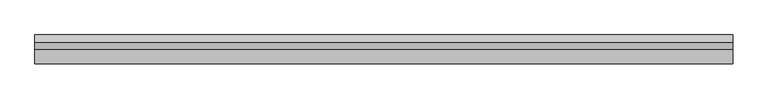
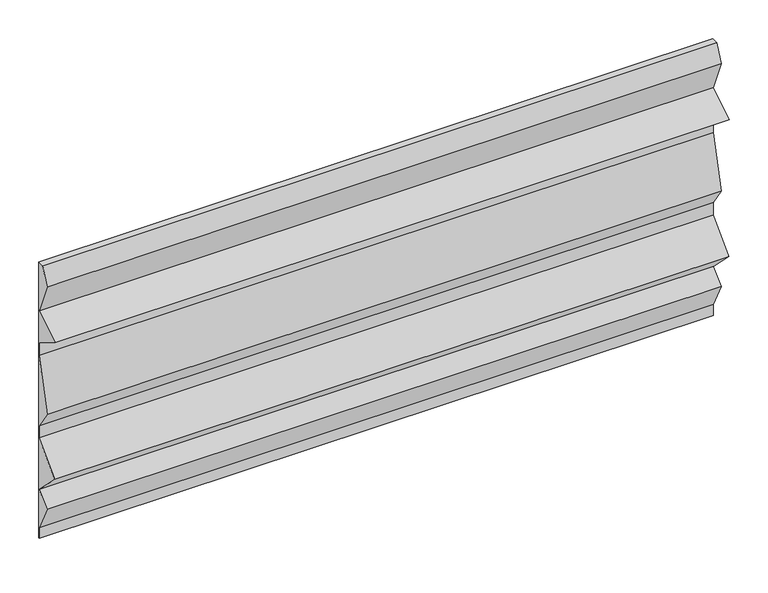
"""IFC4 building model written with IfcOpenShell, lengths in millimetres: plate geometry, ATELIERS 3S_GLACE PISSAILLAS 1000_HORIZONTAL : AZURO."""

import ifcopenshell
import ifcopenshell.guid

model = None  # the IFC model being written
_history = None  # IfcOwnerHistory: only IFC2X3 demands one
_inside = {}  # id of a spatial element -> (the spatial element, [elements in it])
_under = {}  # id of a project, library or spatial element -> (it, [spatial elements below it])
_declared = {}  # id of a project -> (the project, [libraries it declares])
_typed = {}  # id of a type object -> (the type object, [elements of that type])
_made_of = {}  # id of a material, layer set ... -> (it, [elements and type objects made of it])


def new_model(schema):
    """Start an empty IFC model of exactly this schema.

    Asked for "IFC4X3", IfcOpenShell would pick the latest addendum, in which some entities
    have other attributes; the version numbers below select the first issue.
    IFC2X3 requires an IfcOwnerHistory on every rooted entity: one is made here for all.
    """
    global model, _history
    if schema == "IFC4X3":
        model = ifcopenshell.file(schema_version=(4, 3, 0, 0))
    else:
        model = ifcopenshell.file(schema=schema)
    _inside.clear()
    _under.clear()
    _declared.clear()
    _typed.clear()
    _made_of.clear()
    _history = None
    if model.schema == "IFC2X3":
        org = make("IfcOrganization", Name="unknown")
        user = make(
            "IfcPersonAndOrganization",
            ThePerson=make("IfcPerson", FamilyName="unknown"),
            TheOrganization=org,
        )
        app = make(
            "IfcApplication",
            ApplicationDeveloper=org,
            Version="unknown",
            ApplicationFullName="unknown",
            ApplicationIdentifier="unknown",
        )
        _history = make(
            "IfcOwnerHistory",
            OwningUser=user,
            OwningApplication=app,
            ChangeAction="ADDED",
            CreationDate=0,
        )
    return model


def make(cls, **values):
    """One entity of the class cls with the attributes given. An attribute that is None is left unset."""
    return model.create_entity(
        cls, **{name: value for name, value in values.items() if value is not None}
    )


def rooted(cls, **values):
    """An entity with a GlobalId (a new one), such as an element, a storey or a relation."""
    return make(cls, GlobalId=ifcopenshell.guid.new(), OwnerHistory=_history, **values)


def si_unit(unit_type, name, prefix=None):
    """IfcSIUnit, for example si_unit("LENGTHUNIT", "METRE", prefix="MILLI")."""
    return make("IfcSIUnit", UnitType=unit_type, Prefix=prefix, Name=name)


def assignment(units):
    """IfcUnitAssignment: the units of a project."""
    return None if units is None else make("IfcUnitAssignment", Units=units)


def point(xyz):
    """IfcCartesianPoint."""
    return None if xyz is None else make("IfcCartesianPoint", Coordinates=xyz)


def direction(xyz):
    """IfcDirection."""
    return None if xyz is None else make("IfcDirection", DirectionRatios=xyz)


def frame(location, z_axis=None, x_axis=None):
    """IfcAxis2Placement3D, a coordinate frame: its origin and axes. An axis left out is left unset."""
    return make(
        "IfcAxis2Placement3D",
        Location=point(location),
        Axis=direction(z_axis),
        RefDirection=direction(x_axis),
    )


def origin():
    """The frame at (0, 0, 0) with its axes left unset."""
    return frame((0.0, 0.0, 0.0))


def place(relative_to, where):
    """IfcLocalPlacement: puts the frame where relative to a parent placement (None: the world)."""
    return make(
        "IfcLocalPlacement", PlacementRelTo=relative_to, RelativePlacement=where
    )


def context(
    kind, dimensions, precision=None, world=None, true_north=None, identifier=None
):
    """IfcGeometricRepresentationContext, for example the 3D "Model" context."""
    return make(
        "IfcGeometricRepresentationContext",
        ContextIdentifier=identifier,
        ContextType=kind,
        CoordinateSpaceDimension=dimensions,
        Precision=precision,
        WorldCoordinateSystem=world,
        TrueNorth=true_north,
    )


def project(units=None, contexts=None):
    """IfcProject with its units and contexts."""
    return rooted(
        "IfcProject",
        Name="project",
        RepresentationContexts=contexts,
        UnitsInContext=assignment(units),
    )


def spatial(cls, under=None, at=None, **own):
    """A site, building, storey or space (cls), placed at a placement, below another one or the project."""
    s = rooted(cls, ObjectPlacement=at, **own)
    if under is not None:
        _under.setdefault(under.id(), (under, []))[1].append(s)
    return s


def polyline(points):
    """IfcPolyline through the points."""
    return make("IfcPolyline", Points=[point(p) for p in points])


def outline(outer, holes=None, kind="AREA"):
    """IfcArbitraryClosedProfileDef: a profile drawn as a closed curve; with holes, ...WithVoids."""
    if holes is None:
        return make("IfcArbitraryClosedProfileDef", ProfileType=kind, OuterCurve=outer)
    return make(
        "IfcArbitraryProfileDefWithVoids",
        ProfileType=kind,
        OuterCurve=outer,
        InnerCurves=holes,
    )


def extrude(swept, where, along, depth):
    """IfcExtrudedAreaSolid: the profile swept, set in the frame where, extruded along a direction by depth."""
    return make(
        "IfcExtrudedAreaSolid",
        SweptArea=swept,
        Position=where,
        ExtrudedDirection=direction(along),
        Depth=depth,
    )


def shape(context_of_items, identifier, shape_type, items):
    """IfcShapeRepresentation: the items that make up one representation, for example the "Body"."""
    return make(
        "IfcShapeRepresentation",
        ContextOfItems=context_of_items,
        RepresentationIdentifier=identifier,
        RepresentationType=shape_type,
        Items=items,
    )


def source(mapping_origin, context_of_items, identifier, shape_type, items):
    """IfcRepresentationMap: a shape defined once, which mapped items show again and again."""
    return make(
        "IfcRepresentationMap",
        MappingOrigin=mapping_origin,
        MappedRepresentation=shape(context_of_items, identifier, shape_type, items),
    )


def transform(
    local_origin,
    x_axis=None,
    y_axis=None,
    z_axis=None,
    scale=None,
    scale2=None,
    scale3=None,
    uniform=True,
):
    """IfcCartesianTransformationOperator3D, or its non-uniform kind. x_axis, y_axis, z_axis: its Axis1, 2, 3."""
    if uniform:
        return make(
            "IfcCartesianTransformationOperator3D",
            Axis1=direction(x_axis),
            Axis2=direction(y_axis),
            LocalOrigin=point(local_origin),
            Scale=scale,
            Axis3=direction(z_axis),
        )
    return make(
        "IfcCartesianTransformationOperator3DnonUniform",
        Axis1=direction(x_axis),
        Axis2=direction(y_axis),
        LocalOrigin=point(local_origin),
        Scale=scale,
        Axis3=direction(z_axis),
        Scale2=scale2,
        Scale3=scale3,
    )


def mapped(mapping_source, mapping_target):
    """IfcMappedItem: shows the shape of a source again, moved by a transform."""
    return make(
        "IfcMappedItem", MappingSource=mapping_source, MappingTarget=mapping_target
    )


def made_of(thing, what):
    """Note that an element or type object is made of a material, layer set ...; save() writes the relation."""
    if what is not None:
        _made_of.setdefault(what.id(), (what, []))[1].append(thing)
    return thing


def element(
    cls,
    number,
    at=None,
    inside=None,
    cuts=None,
    type_object=None,
    material=None,
    context=None,
    identifier="Body",
    shape_type=None,
    held_by="IfcProductDefinitionShape",
    body=None,
    shapes=None,
    **own,
):
    """One element of the class cls, such as IfcWall. Its Tag is "e" and its number.

    at: its placement. inside: the storey or other place that contains it. cuts: it is an
    opening in that element (IfcRelVoidsElement). A single representation is given by context,
    identifier, shape_type and body (its items); several are given by shapes. held_by: the class
    of the entity that holds the representations. save() writes the other relations.
    """
    e = rooted(cls, Tag="e%d" % number, ObjectPlacement=at, **own)
    if body is not None:
        shapes = [shape(context, identifier, shape_type, body)]
    if shapes is not None:
        e.Representation = make(held_by, Representations=shapes)
    if inside is not None:
        _inside.setdefault(inside.id(), (inside, []))[1].append(e)
    if cuts is not None:
        rooted(
            "IfcRelVoidsElement", RelatingBuildingElement=cuts, RelatedOpeningElement=e
        )
    if type_object is not None:
        _typed.setdefault(type_object.id(), (type_object, []))[1].append(e)
    return made_of(e, material)


def aggregate(whole, parts):
    """IfcRelAggregates: a whole, such as a stair, and the parts it consists of."""
    return rooted("IfcRelAggregates", RelatingObject=whole, RelatedObjects=parts)


def save(model, path):
    """Write the relations noted so far, then the file.

    IfcRelAggregates (storeys below a building ...), IfcRelContainedInSpatialStructure (elements
    in a storey), IfcRelDefinesByType, IfcRelAssociatesMaterial and IfcRelDeclares: one each for
    every whole, place, type object, material and project.
    """
    for whole, parts in _under.values():
        aggregate(whole, parts)
    for where, things in _inside.values():
        rooted(
            "IfcRelContainedInSpatialStructure",
            RelatedElements=things,
            RelatingStructure=where,
        )
    for kind, things in _typed.values():
        rooted("IfcRelDefinesByType", RelatedObjects=things, RelatingType=kind)
    for what, things in _made_of.values():
        rooted("IfcRelAssociatesMaterial", RelatedObjects=things, RelatingMaterial=what)
    for by, libraries in _declared.values():
        rooted("IfcRelDeclares", RelatingContext=by, RelatedDefinitions=libraries)
    model.write(path)


def plate_92da0d4f(model_context):
    return source(origin(), model_context, "Body", "SweptSolid", [
        extrude(outline(polyline([(-0.8, 0.0), (-0.8, 16.9163895), (-20.9135393, 57.5498441), (-1.0660999, 76.9962838), (-41.0606602, 116.9908441), (-0.75, 157.3015043), (-0.75, 176.7637624), (-20.8080747, 206.8508744), (-0.75, 287.0831733), (-0.75, 306.5751584), (-41.4150972, 331.9908441), (-0.9292392, 357.2945053), (-20.8077747, 406.9908441), (-10.2193436, 433.4619218), (0.0, 433.4619218), (0.0, 0.0), (-0.8, 0.0)])), frame((-500.0, 0.0, 0.0), z_axis=(1.0, 0.0, 0.0), x_axis=(0.0, 1.0, 0.0)), (0.0, 0.0, 1.0), 1000.0),
    ])


if __name__ == "__main__":
    model = new_model("IFC4")
    model_context = context("Model", 3, world=origin())
    ifc_project = project(units=[si_unit("LENGTHUNIT", "METRE", prefix="MILLI")], contexts=[model_context])
    site = spatial("IfcSite", under=ifc_project)
    building = spatial("IfcBuilding", under=site)
    placement = place(None, origin())
    plate_shape = plate_92da0d4f(model_context)
    element("IfcPlate", 1, ObjectType="ATELIERS 3S_GLACE PISSAILLAS 1000_HORIZONTAL : AZURO", at=placement, inside=building, context=model_context, shape_type="MappedRepresentation", body=[
        mapped(plate_shape, transform((0.0, 0.0, 0.0), x_axis=(1.0, 0.0, 0.0), y_axis=(0.0, 1.0, 0.0), z_axis=(0.0, 0.0, 1.0))),
    ])
    save(model, "model.ifc")
